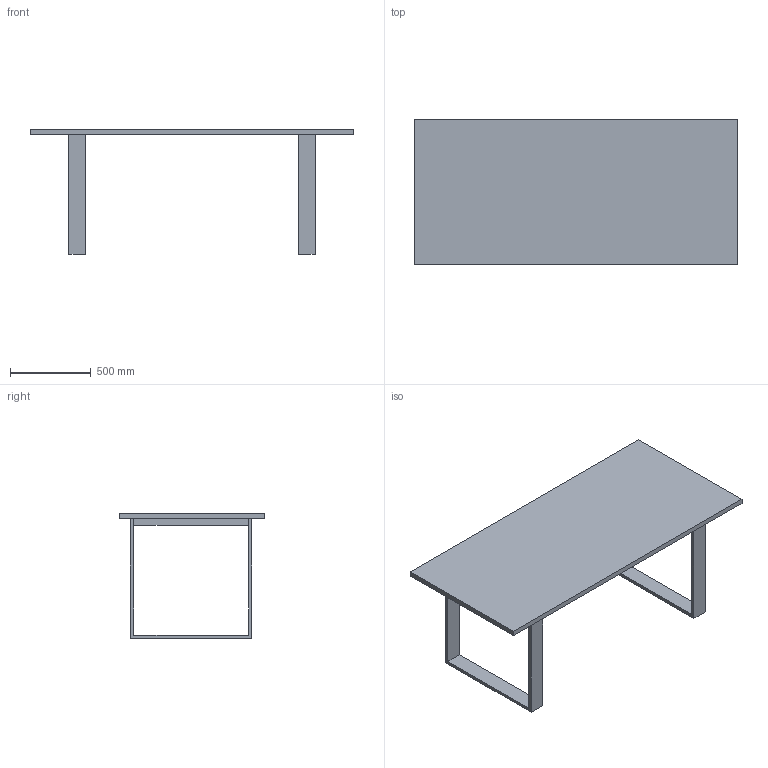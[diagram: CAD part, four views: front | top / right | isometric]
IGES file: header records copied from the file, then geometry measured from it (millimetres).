
Global section: file name: M:\STUDIO polstrin\BA _Datab; native system: Rhinoceros ( May 22 2017 ); preprocessor: Trout Lake IGES 012 May 22 2017; date: 180702.084631; units: millimetre
Bounding box: 2000 x 900 x 772 mm (x, y, z)
Surface area: 5068000 mm2 (no closed solid volume)
Topology: 0 solids, 0 shells, 38 faces, 230 edges, 292 vertices
Faces by surface type: bspline 38
